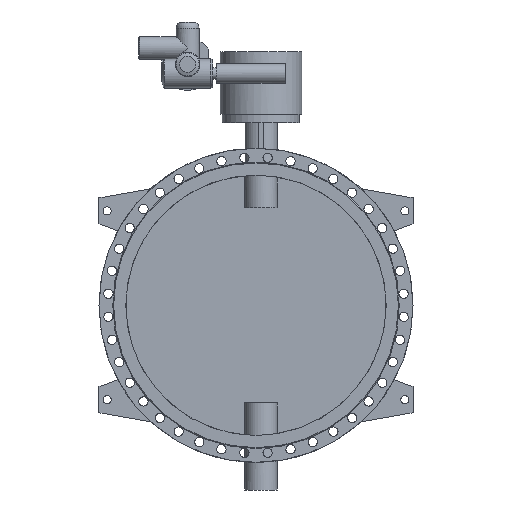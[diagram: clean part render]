
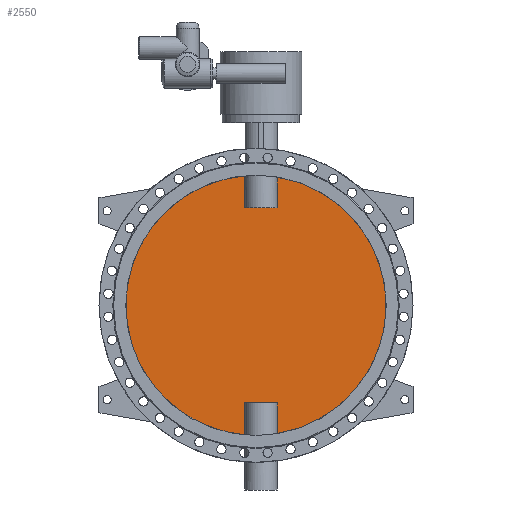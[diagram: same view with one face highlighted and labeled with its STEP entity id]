
A CAD part, front view. The second image highlights one B-rep face of the part: STEP entity #2550.
In plain terms, the highlighted planar face has unit normal (0, -1, 0).
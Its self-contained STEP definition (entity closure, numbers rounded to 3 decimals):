
#2550=ADVANCED_FACE('',(#5253),#5255,.F.);
#5253=FACE_BOUND('',#5254,.T.);
#5254=EDGE_LOOP('',(#6407,#6408,#6409,#6410,#6411,#6412,#6413,#6414));
#5255=PLANE('',#5256);
#5256=AXIS2_PLACEMENT_3D('',#5257,#5258,#5259);
#5257=CARTESIAN_POINT('',(0.,-5.,0.));
#5258=DIRECTION('',(0.,1.,0.));
#5259=DIRECTION('',(1.,0.,0.));
#6407=ORIENTED_EDGE('',*,*,#6985,.T.);
#6408=ORIENTED_EDGE('',*,*,#6990,.T.);
#6409=ORIENTED_EDGE('',*,*,#6991,.T.);
#6410=ORIENTED_EDGE('',*,*,#6992,.T.);
#6411=ORIENTED_EDGE('',*,*,#6987,.T.);
#6412=ORIENTED_EDGE('',*,*,#6993,.T.);
#6413=ORIENTED_EDGE('',*,*,#6994,.T.);
#6414=ORIENTED_EDGE('',*,*,#6995,.T.);
#6985=EDGE_CURVE('',#8015,#8016,#8017,.F.);
#6987=EDGE_CURVE('',#8020,#8018,#8021,.F.);
#6990=EDGE_CURVE('',#8016,#8025,#8026,.T.);
#6991=EDGE_CURVE('',#8025,#8027,#8028,.F.);
#6992=EDGE_CURVE('',#8027,#8020,#8029,.F.);
#6993=EDGE_CURVE('',#8018,#8030,#8031,.F.);
#6994=EDGE_CURVE('',#8030,#8032,#8033,.F.);
#6995=EDGE_CURVE('',#8032,#8015,#8034,.T.);
#8015=VERTEX_POINT('',#12154);
#8016=VERTEX_POINT('',#12155);
#8017=CIRCLE('',#12156,800.);
#8018=VERTEX_POINT('',#12160);
#8020=VERTEX_POINT('',#12260);
#8021=CIRCLE('',#12261,800.);
#8025=VERTEX_POINT('',#12360);
#8026=LINE('',#12361,#12362);
#8027=VERTEX_POINT('',#12364);
#8028=LINE('',#12365,#12366);
#8029=LINE('',#12368,#12369);
#8030=VERTEX_POINT('',#12371);
#8031=LINE('',#12372,#12373);
#8032=VERTEX_POINT('',#12375);
#8033=LINE('',#12376,#12377);
#8034=LINE('',#12379,#12380);
#12154=CARTESIAN_POINT('',(129.875,-5.,-789.387));
#12155=CARTESIAN_POINT('',(129.875,-5.,789.387));
#12156=AXIS2_PLACEMENT_3D('',#12157,#12158,#12159);
#12157=CARTESIAN_POINT('',(0.,-5.,0.));
#12158=DIRECTION('',(0.,1.,0.));
#12159=DIRECTION('',(0.162,0.,0.987));
#12160=CARTESIAN_POINT('',(-69.875,-5.,-796.943));
#12260=CARTESIAN_POINT('',(-69.875,-5.,796.943));
#12261=AXIS2_PLACEMENT_3D('',#12262,#12263,#12264);
#12262=CARTESIAN_POINT('',(0.,-5.,0.));
#12263=DIRECTION('',(0.,1.,0.));
#12264=DIRECTION('',(-0.087,0.,-0.996));
#12360=CARTESIAN_POINT('',(129.875,-5.,600.));
#12361=CARTESIAN_POINT('',(129.875,-5.,789.387));
#12362=VECTOR('',#12363,1.);
#12363=DIRECTION('',(0.,0.,-1.));
#12364=CARTESIAN_POINT('',(-69.875,-5.,600.));
#12365=CARTESIAN_POINT('',(-69.875,-5.,600.));
#12366=VECTOR('',#12367,1.);
#12367=DIRECTION('',(1.,0.,0.));
#12368=CARTESIAN_POINT('',(-69.875,-5.,796.943));
#12369=VECTOR('',#12370,1.);
#12370=DIRECTION('',(0.,0.,-1.));
#12371=CARTESIAN_POINT('',(-69.875,-5.,-600.));
#12372=CARTESIAN_POINT('',(-69.875,-5.,-600.));
#12373=VECTOR('',#12374,1.);
#12374=DIRECTION('',(0.,0.,-1.));
#12375=CARTESIAN_POINT('',(129.875,-5.,-600.));
#12376=CARTESIAN_POINT('',(129.875,-5.,-600.));
#12377=VECTOR('',#12378,1.);
#12378=DIRECTION('',(-1.,0.,0.));
#12379=CARTESIAN_POINT('',(129.875,-5.,-600.));
#12380=VECTOR('',#12381,1.);
#12381=DIRECTION('',(0.,0.,-1.));
